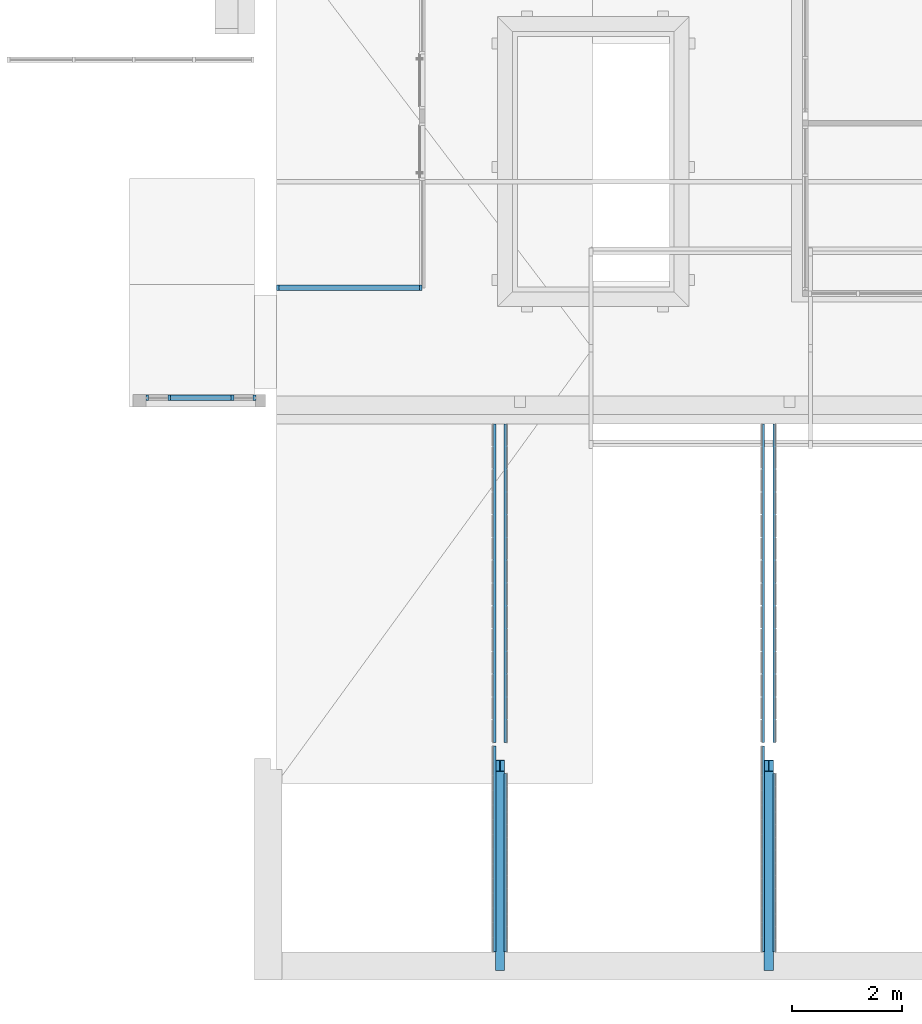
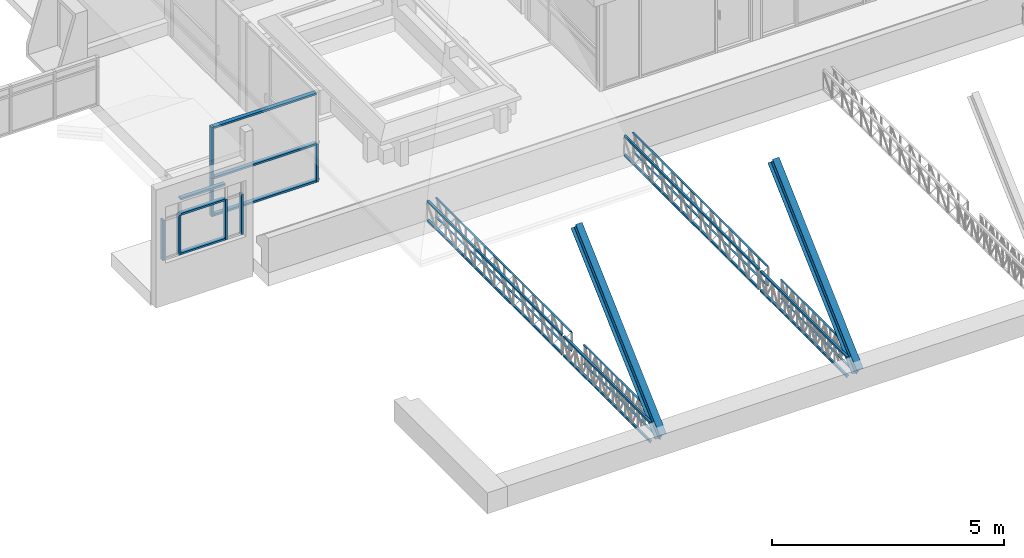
# One storey, part 2 of 153: 18 beams, 13 members, 10 elements without a shape of their own.
"""IFC4 building model written with IfcOpenShell, lengths in metres."""

from ifc_helpers import new_model, entity, si_unit, converted_unit, derived_unit, direction, frame, origin, place, context, subcontext, project, spatial, line, arc, indexed_curve, outline, extrude, source, transform, mapped, material, type_object, type_shapes, element, aggregate, save


model = new_model("IFC4")

# Units and contexts
model_context = context("Model", 3, precision=1e-05, world=origin(), true_north=direction((6.123031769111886e-17, 1.0)))
body_context = subcontext(model_context, "Body", "Model", "MODEL_VIEW")
ifc_project = project(units=[si_unit("LENGTHUNIT", "METRE"), si_unit("AREAUNIT", "SQUARE_METRE"), si_unit("VOLUMEUNIT", "CUBIC_METRE"), converted_unit("PLANEANGLEUNIT", "DEGREE", entity("IfcRatioMeasure", 0.017453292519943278), si_unit("PLANEANGLEUNIT", "RADIAN"), dimensions=[0, 0, 0, 0, 0, 0, 0]), si_unit("MASSUNIT", "GRAM", prefix="KILO"), derived_unit("MASSDENSITYUNIT", [(si_unit("MASSUNIT", "GRAM", prefix="KILO"), 1), (si_unit("LENGTHUNIT", "METRE"), -3)]), derived_unit("MOMENTOFINERTIAUNIT", [(si_unit("LENGTHUNIT", "METRE"), 4)]), si_unit("TIMEUNIT", "SECOND"), si_unit("FREQUENCYUNIT", "HERTZ"), si_unit("THERMODYNAMICTEMPERATUREUNIT", "DEGREE_CELSIUS"), derived_unit("THERMALTRANSMITTANCEUNIT", [(si_unit("MASSUNIT", "GRAM", prefix="KILO"), 1), (si_unit("THERMODYNAMICTEMPERATUREUNIT", "KELVIN"), -1), (si_unit("TIMEUNIT", "SECOND"), -3)]), derived_unit("VOLUMETRICFLOWRATEUNIT", [(si_unit("LENGTHUNIT", "METRE"), 3), (si_unit("TIMEUNIT", "SECOND"), -1)]), derived_unit("MASSFLOWRATEUNIT", [(si_unit("MASSUNIT", "GRAM", prefix="KILO"), 1), (si_unit("TIMEUNIT", "SECOND"), -1)]), derived_unit("ROTATIONALFREQUENCYUNIT", [(si_unit("TIMEUNIT", "SECOND"), -1)]), si_unit("ELECTRICCURRENTUNIT", "AMPERE"), si_unit("ELECTRICVOLTAGEUNIT", "VOLT"), si_unit("POWERUNIT", "WATT"), si_unit("FORCEUNIT", "NEWTON", prefix="KILO"), si_unit("ILLUMINANCEUNIT", "LUX"), si_unit("LUMINOUSFLUXUNIT", "LUMEN"), si_unit("LUMINOUSINTENSITYUNIT", "CANDELA"), derived_unit("USERDEFINED", [(si_unit("MASSUNIT", "GRAM", prefix="KILO"), -1), (si_unit("LENGTHUNIT", "METRE"), -2), (si_unit("TIMEUNIT", "SECOND"), 3), (si_unit("LUMINOUSFLUXUNIT", "LUMEN"), 1)]), derived_unit("SOUNDPOWERUNIT", [(si_unit("MASSUNIT", "GRAM", prefix="KILO"), 1), (si_unit("LENGTHUNIT", "METRE"), 2), (si_unit("TIMEUNIT", "SECOND"), -3)]), derived_unit("SOUNDPRESSUREUNIT", [(si_unit("MASSUNIT", "GRAM", prefix="KILO"), 1), (si_unit("LENGTHUNIT", "METRE"), -1), (si_unit("TIMEUNIT", "SECOND"), -2)]), derived_unit("LINEARVELOCITYUNIT", [(si_unit("LENGTHUNIT", "METRE"), 1), (si_unit("TIMEUNIT", "SECOND"), -1)]), si_unit("PRESSUREUNIT", "PASCAL"), derived_unit("USERDEFINED", [(si_unit("LENGTHUNIT", "METRE"), -2), (si_unit("MASSUNIT", "GRAM", prefix="KILO"), 1), (si_unit("TIMEUNIT", "SECOND"), -2)]), derived_unit("LINEARFORCEUNIT", [(si_unit("MASSUNIT", "GRAM", prefix="KILO"), 1), (si_unit("LENGTHUNIT", "METRE"), 1), (si_unit("TIMEUNIT", "SECOND"), -2), (si_unit("LENGTHUNIT", "METRE"), -1)]), derived_unit("PLANARFORCEUNIT", [(si_unit("MASSUNIT", "GRAM", prefix="KILO"), 1), (si_unit("LENGTHUNIT", "METRE"), 1), (si_unit("TIMEUNIT", "SECOND"), -2), (si_unit("LENGTHUNIT", "METRE"), -2)])], contexts=[model_context])

# Site, building, storey
site_placement = place(None, origin())
site = spatial("IfcSite", under=ifc_project, at=site_placement, Name="Superficie", CompositionType="ELEMENT")
building_placement = place(site_placement, origin())
building = spatial("IfcBuilding", under=site, at=building_placement, CompositionType="ELEMENT")
storey_placement = place(building_placement, frame((0.0, 0.0, 3.5999999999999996)))
storey = spatial("IfcBuildingStorey", under=building, at=storey_placement, Name="Nivel 1", CompositionType="ELEMENT", Elevation=3.5999999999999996)

# Curtain wall, members
curtain_wall_type = type_object("IfcCurtainWallType", Name="Muro cortina:Muro cortina - simple", PredefinedType="NOTDEFINED")
curtain_wall_1_placement = place(storey_placement, frame((0.0, 0.0, -3.5999999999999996)))
curtain_wall_1 = element("IfcCurtainWall", 1, at=curtain_wall_1_placement, inside=storey, type_object=curtain_wall_type, Name="Muro cortina:Muro cortina - simple", ObjectType="Muro cortina:Muro cortina - simple", PredefinedType="NOTDEFINED")
ifc_material_1 = material(Name="<Unnamed>")
member_type_1 = type_object("IfcMemberType", Name="Montante rectangular:Montante rectangular - 5 x 10 cm", PredefinedType="MULLION", material=ifc_material_1)
shared_shape_1 = source(origin(), body_context, "Body", "SweptSolid", [
    extrude(outline(indexed_curve([(-0.05, -0.025), (0.05, -0.025), (0.05, 0.025), (-0.05, 0.025), (-0.05, -0.025)], self_intersect=False)), frame((0.0, 0.0, -1.0594802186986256), z_axis=(0.0, 0.0, 1.0), x_axis=(0.0, -1.0, 0.0)), (0.0, 0.0, 1.0), 1.0594802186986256),
])
type_shapes(member_type_1, [shared_shape_1])
member_1_placement = place(curtain_wall_1_placement, frame((-24.59320098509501, -2.8641707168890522, 4.494999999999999), z_axis=(0.0, 0.0, -1.0), x_axis=(1.0, 0.0, 0.0)))
member_1 = element("IfcMember", 2, at=member_1_placement, type_object=member_type_1, material=ifc_material_1, Name="Montante rectangular:Montante rectangular - 5 x 10 cm", ObjectType="Montante rectangular:Montante rectangular - 5 x 10 cm", PredefinedType="MULLION", context=body_context, shape_type="MappedRepresentation", body=[
    mapped(shared_shape_1, transform((0.0, 0.0, 0.0), scale=1.0)),
])
member_2_placement = place(curtain_wall_1_placement, frame((-23.443200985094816, -2.8641707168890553, 4.494999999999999), z_axis=(0.0, 0.0, -1.0), x_axis=(1.0, 0.0, 0.0)))
member_2 = element("IfcMember", 3, at=member_2_placement, type_object=member_type_1, material=ifc_material_1, Name="Montante rectangular:Montante rectangular - 5 x 10 cm", ObjectType="Montante rectangular:Montante rectangular - 5 x 10 cm", PredefinedType="MULLION", context=body_context, shape_type="MappedRepresentation", body=[
    mapped(shared_shape_1, transform((0.0, 0.0, 0.0), scale=1.0)),
])
member_3_placement = place(curtain_wall_1_placement, frame((-23.043200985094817, -2.864170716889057, 4.494999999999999), z_axis=(0.0, 0.0, -1.0), x_axis=(1.0, 0.0, 0.0)))
member_3 = element("IfcMember", 4, at=member_3_placement, type_object=member_type_1, material=ifc_material_1, Name="Montante rectangular:Montante rectangular - 5 x 10 cm", ObjectType="Montante rectangular:Montante rectangular - 5 x 10 cm", PredefinedType="MULLION", context=body_context, shape_type="MappedRepresentation", body=[
    mapped(shared_shape_1, transform((0.0, 0.0, 0.0), scale=1.0)),
])
member_4_placement = place(curtain_wall_1_placement, frame((-24.99320098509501, -2.8641707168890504, 4.494999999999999), z_axis=(0.0, 0.0, -1.0), x_axis=(1.0, 0.0, 0.0)))
member_4 = element("IfcMember", 5, at=member_4_placement, type_object=member_type_1, material=ifc_material_1, Name="Montante rectangular:Montante rectangular - 5 x 10 cm", ObjectType="Montante rectangular:Montante rectangular - 5 x 10 cm", PredefinedType="MULLION", context=body_context, shape_type="MappedRepresentation", body=[
    mapped(shared_shape_1, transform((0.0, 0.0, 0.0), scale=1.0)),
])
member_type_2 = type_object("IfcMemberType", Name="Montante rectangular:Montante rectangular - 5 x 10 cm", PredefinedType="MULLION", material=ifc_material_1)
shared_shape_2 = source(origin(), body_context, "Body", "SweptSolid", [
    extrude(outline(indexed_curve([(-0.05, -0.025), (0.05, -0.025), (0.05, 0.025), (-0.05, 0.025), (-0.05, -0.025)], self_intersect=False)), frame((0.0, 0.0, -1.100000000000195), z_axis=(0.0, 0.0, 1.0), x_axis=(0.0, -1.0, 0.0)), (0.0, 0.0, 1.0), 1.1000000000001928),
])
type_shapes(member_type_2, [shared_shape_2])
member_5_placement = place(curtain_wall_1_placement, frame((-23.468200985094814, -2.8641707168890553, 5.554480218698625), z_axis=(1.0, 0.0, 0.0), x_axis=(0.0, 0.0, 1.0)))
member_5 = element("IfcMember", 6, at=member_5_placement, type_object=member_type_2, material=ifc_material_1, Name="Montante rectangular:Montante rectangular - 5 x 10 cm", ObjectType="Montante rectangular:Montante rectangular - 5 x 10 cm", PredefinedType="MULLION", context=body_context, shape_type="MappedRepresentation", body=[
    mapped(shared_shape_2, transform((0.0, 0.0, 0.0), scale=1.0)),
])
member_6_placement = place(curtain_wall_1_placement, frame((-23.468200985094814, -2.8641707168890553, 4.52), z_axis=(1.0, 0.0, 0.0), x_axis=(0.0, 0.0, 1.0)))
member_6 = element("IfcMember", 7, at=member_6_placement, type_object=member_type_2, material=ifc_material_1, Name="Montante rectangular:Montante rectangular - 5 x 10 cm", ObjectType="Montante rectangular:Montante rectangular - 5 x 10 cm", PredefinedType="MULLION", context=body_context, shape_type="MappedRepresentation", body=[
    mapped(shared_shape_2, transform((0.0, 0.0, 0.0), scale=1.0)),
])
member_7_placement = place(curtain_wall_1_placement, frame((-23.468200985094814, -2.8641707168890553, 5.954480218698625), z_axis=(1.0, 0.0, 0.0), x_axis=(0.0, 0.0, 1.0)))
member_7 = element("IfcMember", 8, at=member_7_placement, type_object=member_type_2, material=ifc_material_1, Name="Montante rectangular:Montante rectangular - 5 x 10 cm", ObjectType="Montante rectangular:Montante rectangular - 5 x 10 cm", PredefinedType="MULLION", context=body_context, shape_type="MappedRepresentation", body=[
    mapped(shared_shape_2, transform((0.0, 0.0, 0.0), scale=1.0)),
])
aggregate(curtain_wall_1, [member_1, member_2, member_5, member_6, member_3, member_4, member_7])

curtain_wall_2_placement = place(storey_placement, frame((0.0, 0.0, -3.5999999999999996)))
curtain_wall_2 = element("IfcCurtainWall", 9, at=curtain_wall_2_placement, inside=storey, type_object=curtain_wall_type, Name="Muro cortina:Muro cortina - simple", ObjectType="Muro cortina:Muro cortina - simple", PredefinedType="NOTDEFINED")
member_type_3 = type_object("IfcMemberType", Name="Montante rectangular:Montante rectangular - 5 x 10 cm", PredefinedType="MULLION", material=ifc_material_1)
shared_shape_3 = source(origin(), body_context, "Body", "SweptSolid", [
    extrude(outline(indexed_curve([(-0.05, -0.025), (0.05, -0.025), (0.05, 0.025), (-0.05, 0.025), (-0.05, -0.025)], self_intersect=False)), frame((-0.025, 0.0, -1.3499999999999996), z_axis=(0.0, 0.0, 1.0), x_axis=(0.0, -1.0, 0.0)), (0.0, 0.0, 1.0), 1.3499999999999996),
])
type_shapes(member_type_3, [shared_shape_3])
member_8_placement = place(curtain_wall_2_placement, frame((-22.643200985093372, -0.8590623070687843, 5.949999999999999), z_axis=(0.0, 0.0, 1.0), x_axis=(-1.0, 0.0, 0.0)))
member_8 = element("IfcMember", 10, at=member_8_placement, type_object=member_type_3, material=ifc_material_1, Name="Montante rectangular:Montante rectangular - 5 x 10 cm", ObjectType="Montante rectangular:Montante rectangular - 5 x 10 cm", PredefinedType="MULLION", context=body_context, shape_type="MappedRepresentation", body=[
    mapped(shared_shape_3, transform((0.0, 0.0, 0.0), scale=1.0)),
])
member_type_4 = type_object("IfcMemberType", Name="Montante rectangular:Montante rectangular - 5 x 10 cm", PredefinedType="MULLION", material=ifc_material_1)
shared_shape_4 = source(origin(), body_context, "Body", "SweptSolid", [
    extrude(outline(indexed_curve([(-0.05, -0.025), (0.05, -0.025), (0.05, 0.025), (-0.05, 0.025), (-0.05, -0.025)], self_intersect=False)), frame((-0.025, 0.0, -1.0), z_axis=(0.0, 0.0, 1.0), x_axis=(0.0, -1.0, 0.0)), (0.0, 0.0, 1.0), 1.0000000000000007),
])
type_shapes(member_type_4, [shared_shape_4])
member_9_placement = place(curtain_wall_2_placement, frame((-22.643200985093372, -0.8590623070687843, 4.6), z_axis=(0.0, 0.0, 1.0), x_axis=(-1.0, 0.0, 0.0)))
member_9 = element("IfcMember", 11, at=member_9_placement, type_object=member_type_4, material=ifc_material_1, Name="Montante rectangular:Montante rectangular - 5 x 10 cm", ObjectType="Montante rectangular:Montante rectangular - 5 x 10 cm", PredefinedType="MULLION", context=body_context, shape_type="MappedRepresentation", body=[
    mapped(shared_shape_4, transform((0.0, 0.0, 0.0), scale=1.0)),
])
member_type_5 = type_object("IfcMemberType", Name="Montante rectangular:Montante rectangular - 5 x 10 cm", PredefinedType="MULLION", material=ifc_material_1)
shared_shape_5 = source(origin(), body_context, "Body", "SweptSolid", [
    extrude(outline(indexed_curve([(-0.05, -0.025), (0.05, -0.025), (0.05, 0.025), (-0.05, 0.025), (-0.05, -0.025)], self_intersect=False)), frame((-0.025, 0.0, -2.5500000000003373), z_axis=(0.0, 0.0, 1.0), x_axis=(0.0, -1.0, 0.0)), (0.0, 0.0, 1.0), 2.5500000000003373),
])
type_shapes(member_type_5, [shared_shape_5])
member_10_placement = place(curtain_wall_2_placement, frame((-20.043200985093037, -0.8590623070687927, 5.949999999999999), z_axis=(1.0, 0.0, 0.0), x_axis=(0.0, 0.0, 1.0)))
member_10 = element("IfcMember", 12, at=member_10_placement, type_object=member_type_5, material=ifc_material_1, Name="Montante rectangular:Montante rectangular - 5 x 10 cm", ObjectType="Montante rectangular:Montante rectangular - 5 x 10 cm", PredefinedType="MULLION", context=body_context, shape_type="MappedRepresentation", body=[
    mapped(shared_shape_5, transform((0.0, 0.0, 0.0), scale=1.0)),
])
member_type_6 = type_object("IfcMemberType", Name="Montante rectangular:Montante rectangular - 5 x 10 cm", PredefinedType="MULLION", material=ifc_material_1)
shared_shape_6 = source(origin(), body_context, "Body", "SweptSolid", [
    extrude(outline(indexed_curve([(-0.05, -0.025), (0.05, -0.025), (0.05, 0.025), (-0.05, 0.025), (-0.05, -0.025)], self_intersect=False)), frame((-0.025, 0.0, -2.5500000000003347), z_axis=(0.0, 0.0, 1.0), x_axis=(0.0, -1.0, 0.0)), (0.0, 0.0, 1.0), 2.550000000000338),
])
type_shapes(member_type_6, [shared_shape_6])
member_11_placement = place(curtain_wall_2_placement, frame((-22.59320098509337, -0.8590623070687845, 3.5999999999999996), z_axis=(-1.0, 0.0, 0.0), x_axis=(0.0, 0.0, -1.0)))
member_11 = element("IfcMember", 13, at=member_11_placement, type_object=member_type_6, material=ifc_material_1, Name="Montante rectangular:Montante rectangular - 5 x 10 cm", ObjectType="Montante rectangular:Montante rectangular - 5 x 10 cm", PredefinedType="MULLION", context=body_context, shape_type="MappedRepresentation", body=[
    mapped(shared_shape_6, transform((0.0, 0.0, 0.0), scale=1.0)),
])
member_type_7 = type_object("IfcMemberType", Name="Montante rectangular:Montante rectangular - 5 x 10 cm", PredefinedType="MULLION", material=ifc_material_1)
shared_shape_7 = source(origin(), body_context, "Body", "SweptSolid", [
    extrude(outline(indexed_curve([(-0.05, -0.025), (0.05, -0.025), (0.05, 0.025), (-0.05, 0.025), (-0.05, -0.025)], self_intersect=False)), frame((-0.025, 0.0, -1.0), z_axis=(0.0, 0.0, 1.0), x_axis=(0.0, -1.0, 0.0)), (0.0, 0.0, 1.0), 0.9999999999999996),
])
type_shapes(member_type_7, [shared_shape_7])
member_12_placement = place(curtain_wall_2_placement, frame((-19.993200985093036, -0.8590623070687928, 3.5999999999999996), z_axis=(0.0, 0.0, -1.0), x_axis=(1.0, 0.0, 0.0)))
member_12 = element("IfcMember", 14, at=member_12_placement, type_object=member_type_7, material=ifc_material_1, Name="Montante rectangular:Montante rectangular - 5 x 10 cm", ObjectType="Montante rectangular:Montante rectangular - 5 x 10 cm", PredefinedType="MULLION", context=body_context, shape_type="MappedRepresentation", body=[
    mapped(shared_shape_7, transform((0.0, 0.0, 0.0), scale=1.0)),
])
member_type_8 = type_object("IfcMemberType", Name="Montante rectangular:Montante rectangular - 5 x 10 cm", PredefinedType="MULLION", material=ifc_material_1)
shared_shape_8 = source(origin(), body_context, "Body", "SweptSolid", [
    extrude(outline(indexed_curve([(-0.05, -0.025), (0.05, -0.025), (0.05, 0.025), (-0.05, 0.025), (-0.05, -0.025)], self_intersect=False)), frame((0.0, 0.0, -2.550000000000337), z_axis=(0.0, 0.0, 1.0), x_axis=(0.0, -1.0, 0.0)), (0.0, 0.0, 1.0), 2.550000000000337),
])
type_shapes(member_type_8, [shared_shape_8])
member_13_placement = place(curtain_wall_2_placement, frame((-20.043200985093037, -0.8590623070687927, 4.6), z_axis=(1.0, 0.0, 0.0), x_axis=(0.0, 0.0, 1.0)))
member_13 = element("IfcMember", 15, at=member_13_placement, type_object=member_type_8, material=ifc_material_1, Name="Montante rectangular:Montante rectangular - 5 x 10 cm", ObjectType="Montante rectangular:Montante rectangular - 5 x 10 cm", PredefinedType="MULLION", context=body_context, shape_type="MappedRepresentation", body=[
    mapped(shared_shape_8, transform((0.0, 0.0, 0.0), scale=1.0)),
])
aggregate(curtain_wall_2, [member_8, member_10, member_11, member_12, member_9, member_13])

# Assembly, beams
assembly_1_placement = place(storey_placement, origin())
assembly_1 = element("IfcElementAssembly", 16, at=assembly_1_placement, inside=storey, Name="Viga de celosia 13:Viga de celosia 13", ObjectType="Viga de celosia 13:Viga de celosia 13", AssemblyPlace="NOTDEFINED", PredefinedType="TRUSS")
ifc_material_2 = material(Name="Metal - Calibre delgado", Category="Metal")
beam_type_1 = type_object("IfcBeamType", Name="Calibre delgado-Ángulos:L140 x 40", PredefinedType="BEAM", material=ifc_material_2)
shared_shape_9 = source(origin(), body_context, "Body", "SweptSolid", [
    extrude(outline(indexed_curve([(-0.01766666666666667, -0.032333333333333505), (-0.014666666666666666, -0.032333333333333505), (-0.014666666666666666, 0.014666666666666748), (0.03233333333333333, 0.014666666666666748), (0.03233333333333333, 0.017666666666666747), (-0.01766666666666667, 0.017666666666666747), (-0.01766666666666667, -0.032333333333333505)], self_intersect=False)), frame((-2.899999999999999, -0.017666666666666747, -0.01766666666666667), z_axis=(1.0, 0.0, 0.0), x_axis=(0.0, 0.0, -1.0)), (0.0, 0.0, 1.0), 5.799999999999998),
])
type_shapes(beam_type_1, [shared_shape_9])
beam_1_placement = place(assembly_1_placement, frame((-18.70320098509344, -6.23402935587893, 0.02499999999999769), z_axis=(0.0, 0.0, 1.0), x_axis=(0.0, 1.0, 0.0)))
beam_1 = element("IfcBeam", 17, at=beam_1_placement, type_object=beam_type_1, material=ifc_material_2, Name="Calibre delgado-Ángulos:L140 x 40", ObjectType="Calibre delgado-Ángulos:L140 x 40", PredefinedType="BEAM", context=body_context, shape_type="MappedRepresentation", body=[
    mapped(shared_shape_9, transform((0.0, 0.0, 0.0), scale=1.0)),
])
beam_2_placement = place(assembly_1_placement, frame((-18.70320098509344, -6.23402935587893, 0.5249999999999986), z_axis=(0.0, 0.0, 1.0), x_axis=(0.0, 1.0, 0.0)))
beam_2 = element("IfcBeam", 18, at=beam_2_placement, type_object=beam_type_1, material=ifc_material_2, Name="Calibre delgado-Ángulos:L140 x 40", ObjectType="Calibre delgado-Ángulos:L140 x 40", PredefinedType="BEAM", context=body_context, shape_type="MappedRepresentation", body=[
    mapped(shared_shape_9, transform((0.0, 0.0, 0.0), scale=1.0)),
])
aggregate(assembly_1, [beam_1, beam_2])

assembly_2_placement = place(storey_placement, origin())
assembly_2 = element("IfcElementAssembly", 19, at=assembly_2_placement, inside=storey, Name="Viga de celosia 13:Viga de celosia 13", ObjectType="Viga de celosia 13:Viga de celosia 13", AssemblyPlace="NOTDEFINED", PredefinedType="TRUSS")
beam_3_placement = place(assembly_2_placement, frame((-13.813200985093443, -6.234029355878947, 0.02499999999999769), z_axis=(0.0, 0.0, 1.0), x_axis=(0.0, 1.0, 0.0)))
beam_3 = element("IfcBeam", 20, at=beam_3_placement, type_object=beam_type_1, material=ifc_material_2, Name="Calibre delgado-Ángulos:L140 x 40", ObjectType="Calibre delgado-Ángulos:L140 x 40", PredefinedType="BEAM", context=body_context, shape_type="MappedRepresentation", body=[
    mapped(shared_shape_9, transform((0.0, 0.0, 0.0), scale=1.0)),
])
beam_4_placement = place(assembly_2_placement, frame((-13.813200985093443, -6.234029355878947, 0.5249999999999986), z_axis=(0.0, 0.0, 1.0), x_axis=(0.0, 1.0, 0.0)))
beam_4 = element("IfcBeam", 21, at=beam_4_placement, type_object=beam_type_1, material=ifc_material_2, Name="Calibre delgado-Ángulos:L140 x 40", ObjectType="Calibre delgado-Ángulos:L140 x 40", PredefinedType="BEAM", context=body_context, shape_type="MappedRepresentation", body=[
    mapped(shared_shape_9, transform((0.0, 0.0, 0.0), scale=1.0)),
])
aggregate(assembly_2, [beam_3, beam_4])

assembly_3_placement = place(storey_placement, origin())
assembly_3 = element("IfcElementAssembly", 22, at=assembly_3_placement, inside=storey, Name="Viga de celosia 13:Viga de celosia 13", ObjectType="Viga de celosia 13:Viga de celosia 13", AssemblyPlace="NOTDEFINED", PredefinedType="TRUSS")
beam_type_2 = type_object("IfcBeamType", Name="Calibre delgado-Ángulos:L140 x 40", PredefinedType="BEAM", material=ifc_material_2)
shared_shape_10 = source(origin(), body_context, "Body", "SweptSolid", [
    extrude(outline(indexed_curve([(-0.017666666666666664, -0.01766666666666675), (0.03233333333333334, -0.01766666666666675), (0.03233333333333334, -0.01466666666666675), (-0.014666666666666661, -0.014666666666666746), (-0.014666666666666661, 0.0323333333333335), (-0.017666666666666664, 0.0323333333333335), (-0.017666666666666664, -0.01766666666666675)], self_intersect=False)), frame((-2.899999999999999, 0.01766666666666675, -0.017666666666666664), z_axis=(1.0, 0.0, 0.0), x_axis=(0.0, 0.0, -1.0)), (0.0, 0.0, 1.0), 5.799999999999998),
])
type_shapes(beam_type_2, [shared_shape_10])
beam_5_placement = place(assembly_3_placement, frame((-18.45320098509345, -6.23402935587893, 0.02499999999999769), z_axis=(0.0, 0.0, 1.0), x_axis=(0.0, 1.0, 0.0)))
beam_5 = element("IfcBeam", 23, at=beam_5_placement, type_object=beam_type_2, material=ifc_material_2, Name="Calibre delgado-Ángulos:L140 x 40", ObjectType="Calibre delgado-Ángulos:L140 x 40", PredefinedType="BEAM", context=body_context, shape_type="MappedRepresentation", body=[
    mapped(shared_shape_10, transform((0.0, 0.0, 0.0), scale=1.0)),
])
beam_6_placement = place(assembly_3_placement, frame((-18.45320098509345, -6.23402935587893, 0.5249999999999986), z_axis=(0.0, 0.0, 1.0), x_axis=(0.0, 1.0, 0.0)))
beam_6 = element("IfcBeam", 24, at=beam_6_placement, type_object=beam_type_2, material=ifc_material_2, Name="Calibre delgado-Ángulos:L140 x 40", ObjectType="Calibre delgado-Ángulos:L140 x 40", PredefinedType="BEAM", context=body_context, shape_type="MappedRepresentation", body=[
    mapped(shared_shape_10, transform((0.0, 0.0, 0.0), scale=1.0)),
])
aggregate(assembly_3, [beam_5, beam_6])

assembly_4_placement = place(storey_placement, origin())
assembly_4 = element("IfcElementAssembly", 25, at=assembly_4_placement, inside=storey, Name="Viga de celosia 13:Viga de celosia 13", ObjectType="Viga de celosia 13:Viga de celosia 13", AssemblyPlace="NOTDEFINED", PredefinedType="TRUSS")
beam_7_placement = place(assembly_4_placement, frame((-13.563200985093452, -6.234029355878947, 0.02499999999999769), z_axis=(0.0, 0.0, 1.0), x_axis=(0.0, 1.0, 0.0)))
beam_7 = element("IfcBeam", 26, at=beam_7_placement, type_object=beam_type_2, material=ifc_material_2, Name="Calibre delgado-Ángulos:L140 x 40", ObjectType="Calibre delgado-Ángulos:L140 x 40", PredefinedType="BEAM", context=body_context, shape_type="MappedRepresentation", body=[
    mapped(shared_shape_10, transform((0.0, 0.0, 0.0), scale=1.0)),
])
beam_8_placement = place(assembly_4_placement, frame((-13.563200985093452, -6.234029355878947, 0.5249999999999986), z_axis=(0.0, 0.0, 1.0), x_axis=(0.0, 1.0, 0.0)))
beam_8 = element("IfcBeam", 27, at=beam_8_placement, type_object=beam_type_2, material=ifc_material_2, Name="Calibre delgado-Ángulos:L140 x 40", ObjectType="Calibre delgado-Ángulos:L140 x 40", PredefinedType="BEAM", context=body_context, shape_type="MappedRepresentation", body=[
    mapped(shared_shape_10, transform((0.0, 0.0, 0.0), scale=1.0)),
])
aggregate(assembly_4, [beam_7, beam_8])

# Assembly, beam
assembly_5_placement = place(storey_placement, origin())
assembly_5 = element("IfcElementAssembly", 28, at=assembly_5_placement, inside=storey, Name="Viga de celosia 13:Viga de celosia 13", ObjectType="Viga de celosia 13:Viga de celosia 13", AssemblyPlace="NOTDEFINED", PredefinedType="TRUSS")
beam_type_3 = type_object("IfcBeamType", Name="Calibre delgado-Ángulos:L140 x 40", PredefinedType="BEAM", material=ifc_material_2)
shared_shape_11 = source(origin(), body_context, "Body", "SweptSolid", [
    extrude(outline(indexed_curve([(-0.01766666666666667, -0.032333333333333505), (-0.014666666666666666, -0.032333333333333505), (-0.014666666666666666, 0.014666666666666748), (0.03233333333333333, 0.014666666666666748), (0.03233333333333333, 0.017666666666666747), (-0.01766666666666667, 0.017666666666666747), (-0.01766666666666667, -0.032333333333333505)], self_intersect=False)), frame((-1.872500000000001, -0.017666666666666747, -0.01766666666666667), z_axis=(1.0, 0.0, 0.0), x_axis=(0.0, 0.0, -1.0)), (0.0, 0.0, 1.0), 3.745000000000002),
])
type_shapes(beam_type_3, [shared_shape_11])
beam_9_placement = place(assembly_5_placement, frame((-18.70320098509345, -11.07100251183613, 0.02499999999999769), z_axis=(0.0, 0.0, 1.0), x_axis=(0.0, 1.0, 0.0)))
beam_9 = element("IfcBeam", 29, at=beam_9_placement, type_object=beam_type_3, material=ifc_material_2, Name="Calibre delgado-Ángulos:L140 x 40", ObjectType="Calibre delgado-Ángulos:L140 x 40", PredefinedType="BEAM", context=body_context, shape_type="MappedRepresentation", body=[
    mapped(shared_shape_11, transform((0.0, 0.0, 0.0), scale=1.0)),
])

assembly_6_placement = place(storey_placement, origin())
assembly_6 = element("IfcElementAssembly", 30, at=assembly_6_placement, inside=storey, Name="Viga de celosia 13:Viga de celosia 13", ObjectType="Viga de celosia 13:Viga de celosia 13", AssemblyPlace="NOTDEFINED", PredefinedType="TRUSS")
beam_10_placement = place(assembly_6_placement, frame((-13.813200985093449, -11.071002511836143, 0.02499999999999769), z_axis=(0.0, 0.0, 1.0), x_axis=(0.0, 1.0, 0.0)))
beam_10 = element("IfcBeam", 31, at=beam_10_placement, type_object=beam_type_3, material=ifc_material_2, Name="Calibre delgado-Ángulos:L140 x 40", ObjectType="Calibre delgado-Ángulos:L140 x 40", PredefinedType="BEAM", context=body_context, shape_type="MappedRepresentation", body=[
    mapped(shared_shape_11, transform((0.0, 0.0, 0.0), scale=1.0)),
])

# Beam
beam_type_4 = type_object("IfcBeamType", Name="Calibre delgado-Ángulos:L140 x 40", PredefinedType="BEAM", material=ifc_material_2)
shared_shape_12 = source(origin(), body_context, "Body", "SweptSolid", [
    extrude(outline(indexed_curve([(-0.01766666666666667, -0.032333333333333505), (-0.014666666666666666, -0.032333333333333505), (-0.014666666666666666, 0.014666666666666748), (0.03233333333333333, 0.014666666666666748), (0.03233333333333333, 0.017666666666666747), (-0.01766666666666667, 0.017666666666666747), (-0.01766666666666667, -0.032333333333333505)], self_intersect=False)), frame((-1.8594999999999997, -0.017666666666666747, -0.01766666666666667), z_axis=(1.0, 0.0, 0.0), x_axis=(0.0, 0.0, -1.0)), (0.0, 0.0, 1.0), 3.7320000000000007),
])
type_shapes(beam_type_4, [shared_shape_12])
beam_11_placement = place(assembly_5_placement, frame((-18.70320098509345, -11.07100251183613, 0.5249999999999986), z_axis=(0.0, 0.0, 1.0), x_axis=(0.0, 1.0, 0.0)))
beam_11 = element("IfcBeam", 32, at=beam_11_placement, type_object=beam_type_4, material=ifc_material_2, Name="Calibre delgado-Ángulos:L140 x 40", ObjectType="Calibre delgado-Ángulos:L140 x 40", PredefinedType="BEAM", context=body_context, shape_type="MappedRepresentation", body=[
    mapped(shared_shape_12, transform((0.0, 0.0, 0.0), scale=1.0)),
])

aggregate(assembly_5, [beam_9, beam_11])

beam_12_placement = place(assembly_6_placement, frame((-13.813200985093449, -11.071002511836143, 0.5249999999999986), z_axis=(0.0, 0.0, 1.0), x_axis=(0.0, 1.0, 0.0)))
beam_12 = element("IfcBeam", 33, at=beam_12_placement, type_object=beam_type_4, material=ifc_material_2, Name="Calibre delgado-Ángulos:L140 x 40", ObjectType="Calibre delgado-Ángulos:L140 x 40", PredefinedType="BEAM", context=body_context, shape_type="MappedRepresentation", body=[
    mapped(shared_shape_12, transform((0.0, 0.0, 0.0), scale=1.0)),
])

aggregate(assembly_6, [beam_10, beam_12])

# Assembly, beam
assembly_7_placement = place(storey_placement, origin())
assembly_7 = element("IfcElementAssembly", 34, at=assembly_7_placement, inside=storey, Name="Viga de celosia 13:Viga de celosia 13", ObjectType="Viga de celosia 13:Viga de celosia 13", AssemblyPlace="NOTDEFINED", PredefinedType="TRUSS")
beam_type_5 = type_object("IfcBeamType", Name="Calibre delgado-Ángulos:L140 x 40", PredefinedType="BEAM", material=ifc_material_2)
shared_shape_13 = source(origin(), body_context, "Body", "SweptSolid", [
    extrude(outline(indexed_curve([(-0.017666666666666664, -0.01766666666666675), (0.03233333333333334, -0.01766666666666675), (0.03233333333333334, -0.01466666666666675), (-0.014666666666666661, -0.014666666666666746), (-0.014666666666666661, 0.0323333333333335), (-0.017666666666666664, 0.0323333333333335), (-0.017666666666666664, -0.01766666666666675)], self_intersect=False)), frame((-1.6224999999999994, 0.01766666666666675, -0.017666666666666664), z_axis=(1.0, 0.0, 0.0), x_axis=(0.0, 0.0, -1.0)), (0.0, 0.0, 1.0), 3.2449999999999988),
])
type_shapes(beam_type_5, [shared_shape_13])
beam_13_placement = place(assembly_7_placement, frame((-18.453200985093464, -11.321002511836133, 0.02499999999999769), z_axis=(0.0, 0.0, 1.0), x_axis=(0.0, 1.0, 0.0)))
beam_13 = element("IfcBeam", 35, at=beam_13_placement, type_object=beam_type_5, material=ifc_material_2, Name="Calibre delgado-Ángulos:L140 x 40", ObjectType="Calibre delgado-Ángulos:L140 x 40", PredefinedType="BEAM", context=body_context, shape_type="MappedRepresentation", body=[
    mapped(shared_shape_13, transform((0.0, 0.0, 0.0), scale=1.0)),
])

assembly_8_placement = place(storey_placement, origin())
assembly_8 = element("IfcElementAssembly", 36, at=assembly_8_placement, inside=storey, Name="Viga de celosia 13:Viga de celosia 13", ObjectType="Viga de celosia 13:Viga de celosia 13", AssemblyPlace="NOTDEFINED", PredefinedType="TRUSS")
beam_14_placement = place(assembly_8_placement, frame((-13.563200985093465, -11.32100251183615, 0.02499999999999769), z_axis=(0.0, 0.0, 1.0), x_axis=(0.0, 1.0, 0.0)))
beam_14 = element("IfcBeam", 37, at=beam_14_placement, type_object=beam_type_5, material=ifc_material_2, Name="Calibre delgado-Ángulos:L140 x 40", ObjectType="Calibre delgado-Ángulos:L140 x 40", PredefinedType="BEAM", context=body_context, shape_type="MappedRepresentation", body=[
    mapped(shared_shape_13, transform((0.0, 0.0, 0.0), scale=1.0)),
])

# Beam
beam_type_6 = type_object("IfcBeamType", Name="Calibre delgado-Ángulos:L140 x 40", PredefinedType="BEAM", material=ifc_material_2)
shared_shape_14 = source(origin(), body_context, "Body", "SweptSolid", [
    extrude(outline(indexed_curve([(-0.017666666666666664, -0.01766666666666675), (0.03233333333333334, -0.01766666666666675), (0.03233333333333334, -0.01466666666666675), (-0.014666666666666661, -0.014666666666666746), (-0.014666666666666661, 0.0323333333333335), (-0.017666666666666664, 0.0323333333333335), (-0.017666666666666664, -0.01766666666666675)], self_intersect=False)), frame((-1.6095000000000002, 0.01766666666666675, -0.017666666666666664), z_axis=(1.0, 0.0, 0.0), x_axis=(0.0, 0.0, -1.0)), (0.0, 0.0, 1.0), 3.2319999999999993),
])
type_shapes(beam_type_6, [shared_shape_14])
beam_15_placement = place(assembly_7_placement, frame((-18.453200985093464, -11.321002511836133, 0.5249999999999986), z_axis=(0.0, 0.0, 1.0), x_axis=(0.0, 1.0, 0.0)))
beam_15 = element("IfcBeam", 38, at=beam_15_placement, type_object=beam_type_6, material=ifc_material_2, Name="Calibre delgado-Ángulos:L140 x 40", ObjectType="Calibre delgado-Ángulos:L140 x 40", PredefinedType="BEAM", context=body_context, shape_type="MappedRepresentation", body=[
    mapped(shared_shape_14, transform((0.0, 0.0, 0.0), scale=1.0)),
])

aggregate(assembly_7, [beam_13, beam_15])

beam_16_placement = place(assembly_8_placement, frame((-13.563200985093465, -11.32100251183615, 0.5249999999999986), z_axis=(0.0, 0.0, 1.0), x_axis=(0.0, 1.0, 0.0)))
beam_16 = element("IfcBeam", 39, at=beam_16_placement, type_object=beam_type_6, material=ifc_material_2, Name="Calibre delgado-Ángulos:L140 x 40", ObjectType="Calibre delgado-Ángulos:L140 x 40", PredefinedType="BEAM", context=body_context, shape_type="MappedRepresentation", body=[
    mapped(shared_shape_14, transform((0.0, 0.0, 0.0), scale=1.0)),
])

aggregate(assembly_8, [beam_14, beam_16])

# Beams
ifc_material_3 = material(Name="Metal - Acero - 345 MPa", Category="Metal")
beam_type_7 = type_object("IfcBeamType", Name="UB-Perfil universal:305x165x40UB", PredefinedType="BEAM", material=ifc_material_3)
shared_shape_15 = source(origin(), body_context, "Body", "SweptSolid", [
    extrude(outline(indexed_curve([(-0.15169999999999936, -0.08250000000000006), (-0.14150000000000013, -0.08250000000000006), (-0.14150000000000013, -0.011899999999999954), (-0.1388932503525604, -0.005606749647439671), (-0.1326000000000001, -0.0029999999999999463), (0.13259999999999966, -0.0029999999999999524), (0.13889325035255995, -0.00560674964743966), (0.1414999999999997, -0.01189999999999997), (0.1414999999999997, -0.08250000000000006), (0.15170000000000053, -0.08250000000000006), (0.15170000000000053, 0.08250000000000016), (0.1414999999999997, 0.08250000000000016), (0.1414999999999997, 0.011900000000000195), (0.13889325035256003, 0.0056067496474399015), (0.13259999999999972, 0.003000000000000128), (-0.1326, 0.0030000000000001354), (-0.1388932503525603, 0.0056067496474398), (-0.14150000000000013, 0.011900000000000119), (-0.14150000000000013, 0.0824999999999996), (-0.15169999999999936, 0.0824999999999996)], segments=[line(1, 2, 3), arc(3, 4, 5), line(5, 6), arc(6, 7, 8), line(8, 9, 10, 11, 12, 13), arc(13, 14, 15), line(15, 16), arc(16, 17, 18), line(18, 19, 20, 1)], self_intersect=False)), frame((-2.7259999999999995, 0.0, 0.0), z_axis=(1.0, 0.0, 0.0), x_axis=(0.0, 0.0, -1.0)), (0.0, 0.0, 1.0), 4.936999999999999),
])
type_shapes(beam_type_7, [shared_shape_15])
for number, where, z_axis, x_axis, name in (
    (40, (-13.688200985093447, -11.555696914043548, 1.7559320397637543), (0.0, -0.6782801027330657, 0.734803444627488), (0.0, -0.734803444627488, -0.6782801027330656), "UB-Perfil universal:305x165x40UB"),
    (41, (-18.578200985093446, -11.555696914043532, 1.7559320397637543), (0.0, -0.6782801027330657, 0.734803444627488), (0.0, -0.734803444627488, -0.6782801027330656), "UB-Perfil universal:305x165x40UB"),
):
    element("IfcBeam", number, at=place(storey_placement, frame(where, z_axis=z_axis, x_axis=x_axis)), inside=storey, type_object=beam_type_7, material=ifc_material_3, Name=name, ObjectType="UB-Perfil universal:305x165x40UB", PredefinedType="BEAM", context=body_context, shape_type="MappedRepresentation", body=[
        mapped(shared_shape_15, transform((0.0, 0.0, 0.0), scale=1.0)),
    ])

save(model, "model.ifc")
